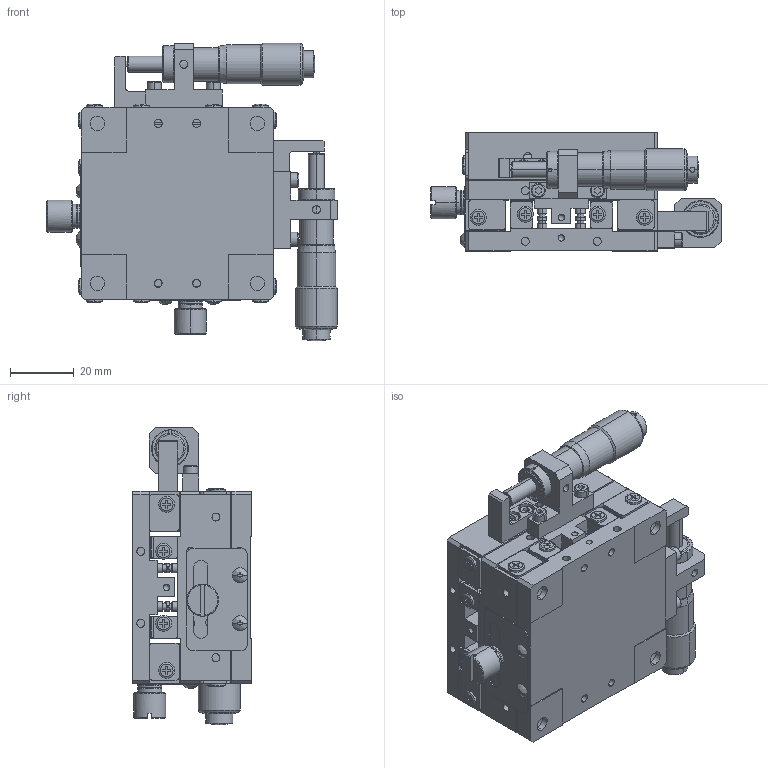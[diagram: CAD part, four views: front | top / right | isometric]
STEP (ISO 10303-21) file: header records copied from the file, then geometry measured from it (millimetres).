
FILE_DESCRIPTION (( 'STEP AP214' ), '1' );
FILE_NAME ('PBL-662S.STEP', '2018-07-24T09:27:10', ( '微软用户' ), ( '微软中国' ), 'SwSTEP 2.0', 'SolidWorks 2015', '' );
FILE_SCHEMA (( 'AUTOMOTIVE_DESIGN' ));
Length unit declared in the file: millimetre
Products named in the file (1): PBL-662S
Bounding box: 90.95 x 37 x 92.99 mm (x, y, z)
Volume: 123764.4 mm3; surface area: 80954.3 mm2
Topology: 91 solids, 91 shells, 1962 faces, 4795 edges, 3102 vertices
Faces by surface type: plane 957, cylinder 756, cone 226, bspline 23
Full cylindrical faces by diameter (mm): 2.5 x2
Entity records: 82674 total; most frequent: CARTESIAN_POINT 12516, DIRECTION 10173, ORIENTED_EDGE 9522, EDGE_CURVE 4761, AXIS2_PLACEMENT_3D 3733, VERTEX_POINT 3096, VECTOR 2707, LINE 2707
